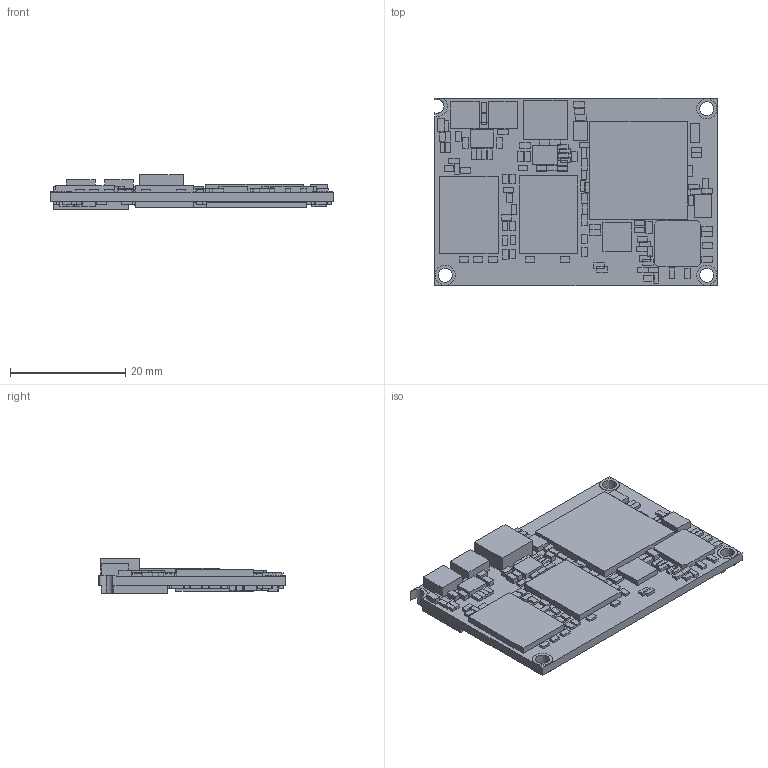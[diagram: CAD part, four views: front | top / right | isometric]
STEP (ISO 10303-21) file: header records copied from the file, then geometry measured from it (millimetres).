
FILE_DESCRIPTION (( 'STEP AP203' ), '1' );
FILE_NAME ('A38XuSoM-Rev.2.0.STEP', '2015-10-08T10:28:14', ( '' ), ( '' ), 'SwSTEP 2.0', 'SolidWorks 2014', '' );
FILE_SCHEMA (( 'CONFIG_CONTROL_DESIGN' ));
Length unit declared in the file: millimetre
Products named in the file (3): A38XuSoM-Rev.2.0; A38XuSoM-rev2.0; DF40C-80DP
Assembly tree (3 placements, depth 2):
  A38XuSoM-Rev.2.0
    A38XuSoM-rev2.0
    DF40C-80DP  x2
Bounding box: 49 x 32.5 x 5.97 mm (x, y, z)
Volume: 4239.9 mm3; surface area: 7748.8 mm2
Topology: 242 solids, 242 shells, 3675 faces, 9491 edges, 6314 vertices
Faces by surface type: plane 2903, cylinder 740, bspline 24, cone 8
Entity records: 74550 total; most frequent: CARTESIAN_POINT 13325, ORIENTED_EDGE 12506, DIRECTION 12127, EDGE_CURVE 6253, VECTOR 5447, LINE 5447, VERTEX_POINT 4162, AXIS2_PLACEMENT_3D 3340
